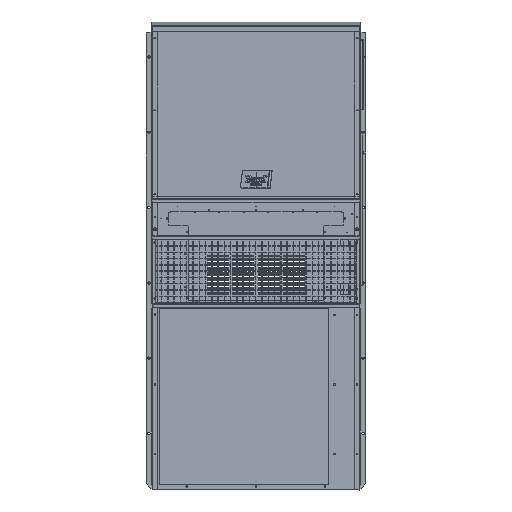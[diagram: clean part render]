
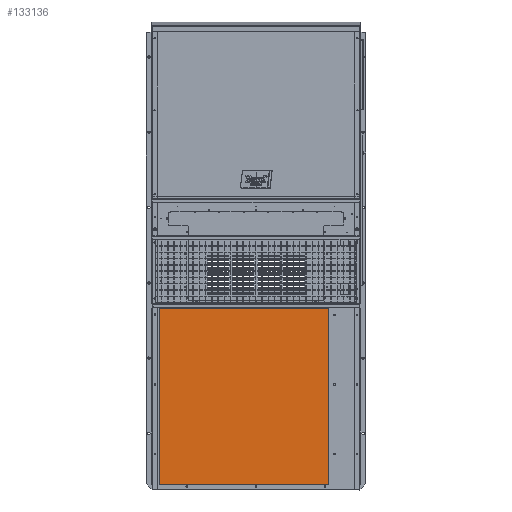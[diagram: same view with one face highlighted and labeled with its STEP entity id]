
A CAD part, top view. The second image highlights one B-rep face of the part: STEP entity #133136.
In plain terms, the highlighted planar face has unit normal (0, 0, 1).
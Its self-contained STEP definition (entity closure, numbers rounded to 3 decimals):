
#68 = LINE ( 'NONE', #45688, #109343 ) ;
#1767 = LINE ( 'NONE', #65232, #33772 ) ;
#15338 = ORIENTED_EDGE ( 'NONE', *, *, #113732, .F. ) ;
#29096 = ORIENTED_EDGE ( 'NONE', *, *, #33229, .F. ) ;
#31400 = CARTESIAN_POINT ( 'NONE',  ( -4.884, -45.615, 16.411 ) ) ;
#32970 = CARTESIAN_POINT ( 'NONE',  ( -4.884, -73.684, 16.411 ) ) ;
#33229 = EDGE_CURVE ( 'NONE', #129955, #113033, #95014, .T. ) ;
#33772 = VECTOR ( 'NONE', #51397, 39.37 ) ;
#45688 = CARTESIAN_POINT ( 'NONE',  ( -31.887, -73.684, 16.411 ) ) ;
#46106 = PLANE ( 'NONE',  #70054 ) ;
#46693 = DIRECTION ( 'NONE',  ( 0., -1., 0. ) ) ;
#50157 = DIRECTION ( 'NONE',  ( -1., 0., 0. ) ) ;
#51397 = DIRECTION ( 'NONE',  ( 0., -1., 0. ) ) ;
#51685 = EDGE_CURVE ( 'NONE', #113033, #60496, #68, .T. ) ;
#54080 = EDGE_CURVE ( 'NONE', #160248, #129955, #1767, .T. ) ;
#54270 = VECTOR ( 'NONE', #50157, 39.37 ) ;
#60496 = VERTEX_POINT ( 'NONE', #142400 ) ;
#62926 = ORIENTED_EDGE ( 'NONE', *, *, #51685, .F. ) ;
#65232 = CARTESIAN_POINT ( 'NONE',  ( -4.884, -73.684, 16.411 ) ) ;
#70054 = AXIS2_PLACEMENT_3D ( 'NONE', #32970, #128862, #46693 ) ;
#76922 = CARTESIAN_POINT ( 'NONE',  ( -4.884, -73.684, 16.411 ) ) ;
#78824 = CARTESIAN_POINT ( 'NONE',  ( -31.887, -45.615, 16.411 ) ) ;
#95014 = LINE ( 'NONE', #118597, #54270 ) ;
#98524 = LINE ( 'NONE', #78824, #171344 ) ;
#109343 = VECTOR ( 'NONE', #127845, 39.37 ) ;
#113033 = VERTEX_POINT ( 'NONE', #140835 ) ;
#113732 = EDGE_CURVE ( 'NONE', #60496, #160248, #98524, .T. ) ;
#118597 = CARTESIAN_POINT ( 'NONE',  ( -31.887, -73.684, 16.411 ) ) ;
#119699 = ORIENTED_EDGE ( 'NONE', *, *, #54080, .F. ) ;
#127845 = DIRECTION ( 'NONE',  ( 0., 1., 0. ) ) ;
#128862 = DIRECTION ( 'NONE',  ( 0., 0., 1. ) ) ;
#129955 = VERTEX_POINT ( 'NONE', #76922 ) ;
#133136 = ADVANCED_FACE ( 'NONE', ( #175429 ), #46106, .T. ) ;
#140835 = CARTESIAN_POINT ( 'NONE',  ( -31.887, -73.684, 16.411 ) ) ;
#142400 = CARTESIAN_POINT ( 'NONE',  ( -31.887, -45.615, 16.411 ) ) ;
#159185 = DIRECTION ( 'NONE',  ( 1., 0., 0. ) ) ;
#160248 = VERTEX_POINT ( 'NONE', #31400 ) ;
#161037 = EDGE_LOOP ( 'NONE', ( #15338, #62926, #29096, #119699 ) ) ;
#171344 = VECTOR ( 'NONE', #159185, 39.37 ) ;
#175429 = FACE_OUTER_BOUND ( 'NONE', #161037, .T. ) ;
